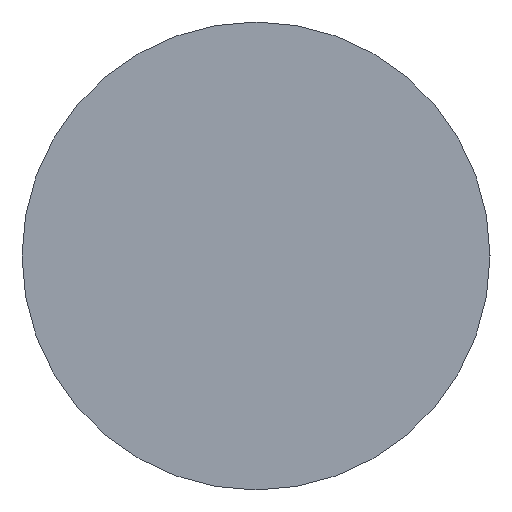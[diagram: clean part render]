
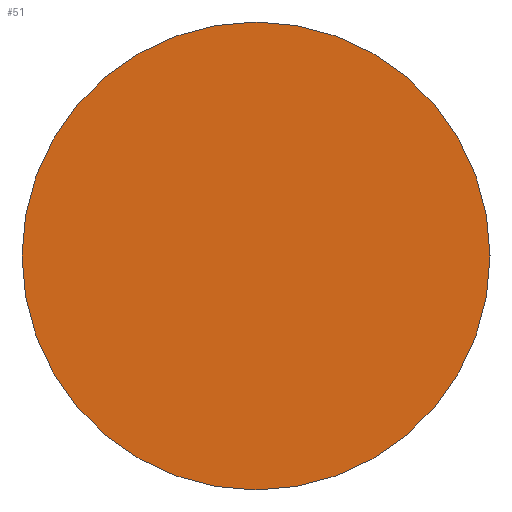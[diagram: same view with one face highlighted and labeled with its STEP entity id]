
A CAD part, left-side view. The second image highlights one B-rep face of the part: STEP entity #51.
In plain terms, the highlighted planar face has unit normal (-1, 0, 0).
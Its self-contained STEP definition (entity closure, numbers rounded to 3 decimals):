
#5 = DIRECTION ( 'NONE',  ( 0., 1., 0. ) ) ;
#16 = AXIS2_PLACEMENT_3D ( 'NONE', #193, #250, #31 ) ;
#18 = DIRECTION ( 'NONE',  ( 1., 0., 0. ) ) ;
#26 = CARTESIAN_POINT ( 'NONE',  ( 0., 0., 0. ) ) ;
#31 = DIRECTION ( 'NONE',  ( 0., -1., 0. ) ) ;
#35 = EDGE_CURVE ( 'NONE', #77, #52, #48, .T. ) ;
#43 = CARTESIAN_POINT ( 'NONE',  ( 0., 0., 0. ) ) ;
#48 = CIRCLE ( 'NONE', #72, 1.5 ) ;
#51 = ADVANCED_FACE ( 'NONE', ( #73 ), #143, .T. ) ;
#52 = VERTEX_POINT ( 'NONE', #210 ) ;
#67 = EDGE_LOOP ( 'NONE', ( #98, #164 ) ) ;
#72 = AXIS2_PLACEMENT_3D ( 'NONE', #26, #18, #123 ) ;
#73 = FACE_OUTER_BOUND ( 'NONE', #67, .T. ) ;
#77 = VERTEX_POINT ( 'NONE', #180 ) ;
#98 = ORIENTED_EDGE ( 'NONE', *, *, #35, .F. ) ;
#105 = DIRECTION ( 'NONE',  ( 1., 0., 0. ) ) ;
#123 = DIRECTION ( 'NONE',  ( 0., 1., 0. ) ) ;
#143 = PLANE ( 'NONE',  #16 ) ;
#157 = AXIS2_PLACEMENT_3D ( 'NONE', #43, #105, #5 ) ;
#164 = ORIENTED_EDGE ( 'NONE', *, *, #225, .F. ) ;
#165 = CIRCLE ( 'NONE', #157, 1.5 ) ;
#180 = CARTESIAN_POINT ( 'NONE',  ( 0., 1.5, 0. ) ) ;
#193 = CARTESIAN_POINT ( 'NONE',  ( 0., 0., 0. ) ) ;
#210 = CARTESIAN_POINT ( 'NONE',  ( 0., -1.5, 0. ) ) ;
#225 = EDGE_CURVE ( 'NONE', #52, #77, #165, .T. ) ;
#250 = DIRECTION ( 'NONE',  ( -1., 0., 0. ) ) ;
